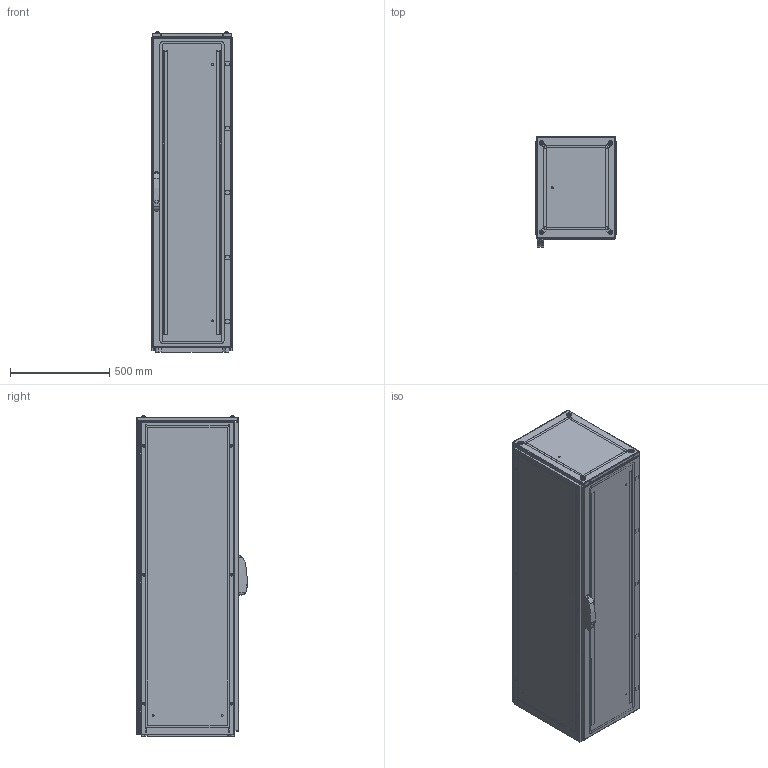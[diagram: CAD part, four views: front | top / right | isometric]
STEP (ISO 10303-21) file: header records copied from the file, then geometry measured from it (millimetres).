
FILE_DESCRIPTION(/* description */ ('STEP AP214'),/* implementation_level */ '2;1');
FILE_NAME(/* name */ 'ENUX041605PR-LOD350',/* time_stamp */ '2025-07-28T12:51:11+02:00',/* author */ ('License CC BY-ND 4.0'),/* organization */ ('CADENAS'),/* preprocessor_version */ 'ST-DEVELOPER v19.3',/* originating_system */ 'PARTsolutions',/* authorisation */ ' ');
FILE_SCHEMA (('AUTOMOTIVE_DESIGN {1 0 10303 214 3 1 1}'));
Length unit declared in the file: millimetre
Products named in the file (10): ENUX041605PR-LOD350; ENUX041605PR-LOD350_CON; ENUX041605PR-LOD350_floor1; ENUX041605PR-LOD350_floor2; Screw M12x30 architecture 350; ENUX041605PR-LOD350_side; ENUX041605PR-LOD350_top; ENUX041605PR-LOD350_back_door; ENUX041605PR-LOD350_door; ENUX041605PR-LOD350_handle
Assembly tree (15 placements, depth 2):
  ENUX041605PR-LOD350
    ENUX041605PR-LOD350_CON
    ENUX041605PR-LOD350_floor1  x2
    ENUX041605PR-LOD350_floor2  x2
    Screw M12x30 architecture 350  x4
    ENUX041605PR-LOD350_side  x2
    ENUX041605PR-LOD350_top
    ENUX041605PR-LOD350_back_door
    ENUX041605PR-LOD350_door
    ENUX041605PR-LOD350_handle
Bounding box: 412 x 557 x 1614.1 mm (x, y, z)
Volume: 13415068.1 mm3; surface area: 10817779.3 mm2
Topology: 15 solids, 15 shells, 1522 faces, 4229 edges, 2752 vertices
Faces by surface type: plane 778, cylinder 589, cone 71, torus 68, sphere 16
Full cylindrical faces by diameter (mm): 4.5 x84, 6 x14, 6.8 x8, 9 x9, 12 x16, 13 x4, 18 x1, 21 x4
Entity records: 39535 total; most frequent: CARTESIAN_POINT 6886, DIRECTION 6835, ORIENTED_EDGE 6432, EDGE_CURVE 3216, AXIS2_PLACEMENT_3D 2423, VERTEX_POINT 2233, LINE 1989, VECTOR 1989
